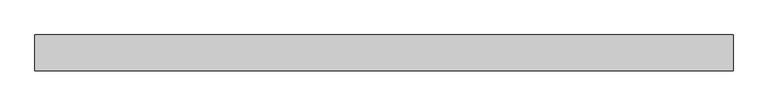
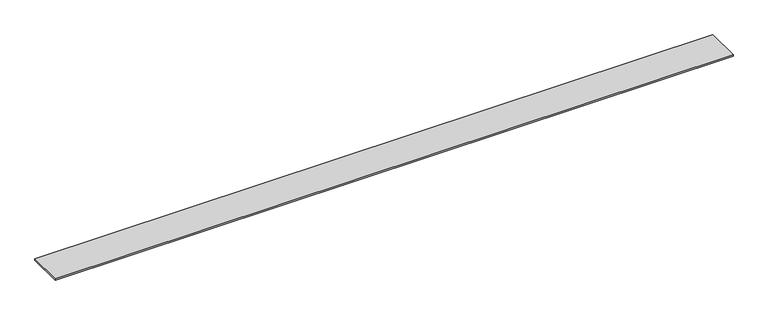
"""IFC4 building model written with IfcOpenShell, lengths in millimetres: furniture geometry, Geiger_GeigerOneCasegoods_WallTopTrimDoubleSidedWall : 72Wx3.75Dx0.125H."""

from ifc_helpers import new_model, si_unit, origin, origin_with_axes, place, context, project, spatial, polyline, outline, extrude, source, transform, mapped, element, save


def furniture_ae18515d(model_context):
    return source(origin(), model_context, "Body", "SweptSolid", [
        extrude(outline(polyline([(1828.8, 46.99), (1828.8, -46.99), (0.0, -46.99), (0.0, 46.99), (1828.8, 46.99)])), origin_with_axes(), (0.0, 0.0, 1.0), 3.2004),
    ])


if __name__ == "__main__":
    model = new_model("IFC4")
    model_context = context("Model", 3, world=origin())
    ifc_project = project(units=[si_unit("LENGTHUNIT", "METRE", prefix="MILLI")], contexts=[model_context])
    site = spatial("IfcSite", under=ifc_project)
    building = spatial("IfcBuilding", under=site)
    placement = place(None, origin())
    furniture_shape = furniture_ae18515d(model_context)
    element("IfcFurniture", 1, ObjectType="Geiger_GeigerOneCasegoods_WallTopTrimDoubleSidedWall : 72Wx3.75Dx0.125H", at=placement, inside=building, context=model_context, shape_type="MappedRepresentation", body=[
        mapped(furniture_shape, transform((0.0, 0.0, 0.0), x_axis=(1.0, 0.0, 0.0), y_axis=(0.0, 1.0, 0.0), z_axis=(0.0, 0.0, 1.0))),
    ])
    save(model, "model.ifc")
